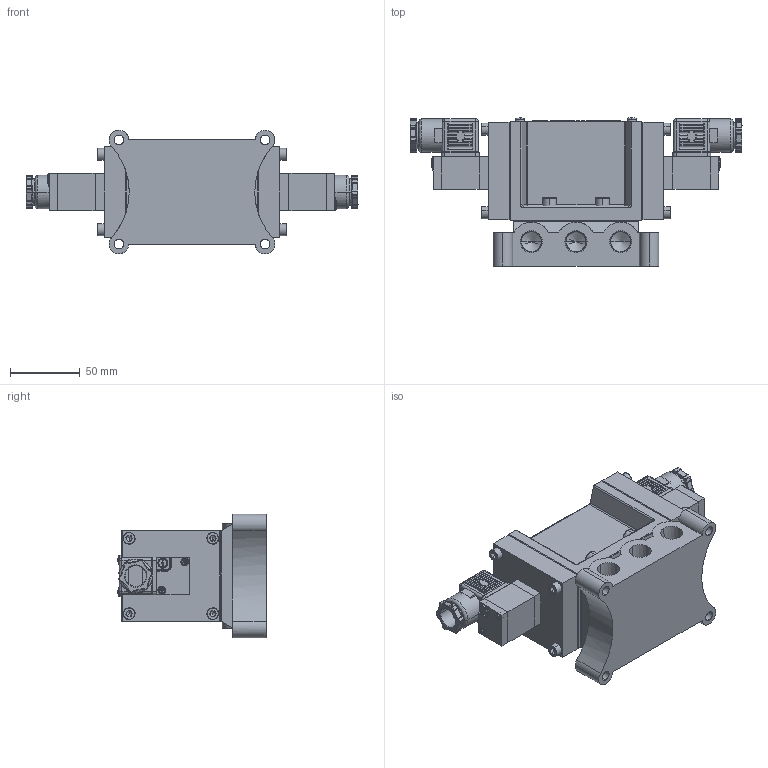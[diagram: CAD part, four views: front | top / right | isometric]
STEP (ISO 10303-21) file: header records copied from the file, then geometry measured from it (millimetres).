
FILE_DESCRIPTION (( 'STEP AP203' ), '1' );
FILE_NAME ('PMD2410#-03-#C#.STEP', '2016-03-09T06:23:35', ( 'Sam Lin' ), ( '' ), 'SwSTEP 2.0', 'SolidWorks 2013', '' );
FILE_SCHEMA (( 'CONFIG_CONTROL_DESIGN' ));
Length unit declared in the file: metre
Products named in the file (17): PMD2410#-03-#C#; PMS2410-6; PMS2410-7; PMS2410-8; PMS2410-1; PM06-C1_1; PMS2410-2; PM06-C4_1; PMS2410-3; PM06-C6-M3_1; PMS2410-4; PM06-C5_1; ISO 4762 M6 x 20; ISO 4762 M5 x 20; PMS2306-6(C)_1; PM10-MARK-2410; PM06-C3-M4_1
Assembly tree (39 placements, depth 2):
  PMD2410#-03-#C#
    PMS2410-1
    PMS2410-2
    PMS2410-3  x2
    PMS2410-4  x2
    ISO 4762 M5 x 20  x8
    PM06-C3-M4_1  x4
    ISO 4762 M6 x 20  x4
    PM10-MARK-2410
    PMS2410-6
    PMS2410-7
    PMS2410-8  x2
    PM06-C1_1  x2
    PM06-C4_1  x2
    PM06-C6-M3_1  x4
    PM06-C5_1  x2
    PMS2306-6(C)_1  x2
Bounding box: 238 x 106.35 x 88.61 mm (x, y, z)
Volume: 779851.6 mm3; surface area: 178869.6 mm2
Topology: 45 solids, 45 shells, 1636 faces, 4091 edges, 2357 vertices
Faces by surface type: plane 630, cylinder 468, bspline 400, cone 138
Entity records: 33649 total; most frequent: CARTESIAN_POINT 14476, ORIENTED_EDGE 3590, DIRECTION 3260, EDGE_CURVE 1795, AXIS2_PLACEMENT_3D 1203, VERTEX_POINT 1131, EDGE_LOOP 876, VECTOR 854
